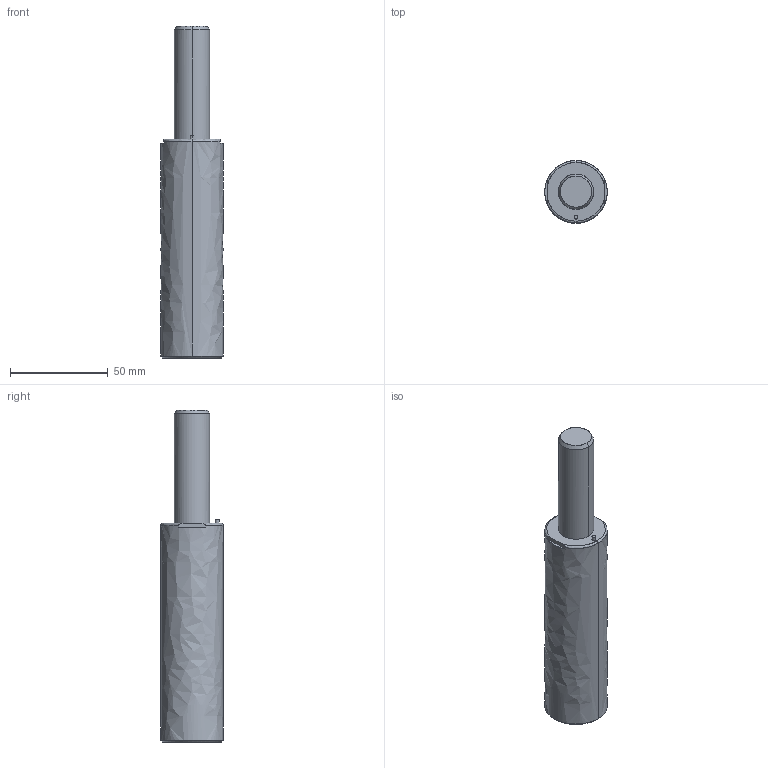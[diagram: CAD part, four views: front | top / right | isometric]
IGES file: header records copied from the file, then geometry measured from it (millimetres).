
Global section: file name: E:\UnigraphicsGraphicData\MISUMI_PRESS-PARTS\IGES\3d_gsx32-56_03975_r00.igs; native system: NX V5.0; preprocessor: UGS NX IGES V5.0; author: MISUMI; date: 20110105.160823; units: millimetre
Bounding box: 32 x 32 x 170 mm (x, y, z)
Surface area: 16902.9 mm2 (no closed solid volume)
Topology: 0 solids, 0 shells, 45 faces, 308 edges, 304 vertices
Faces by surface type: bspline 45
